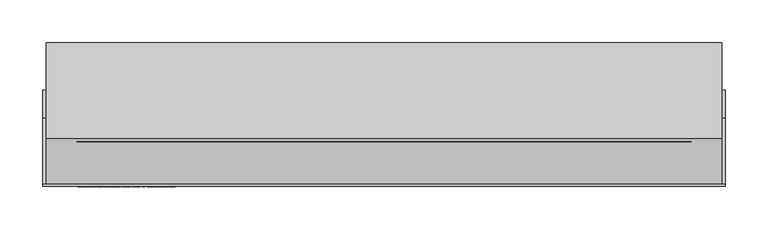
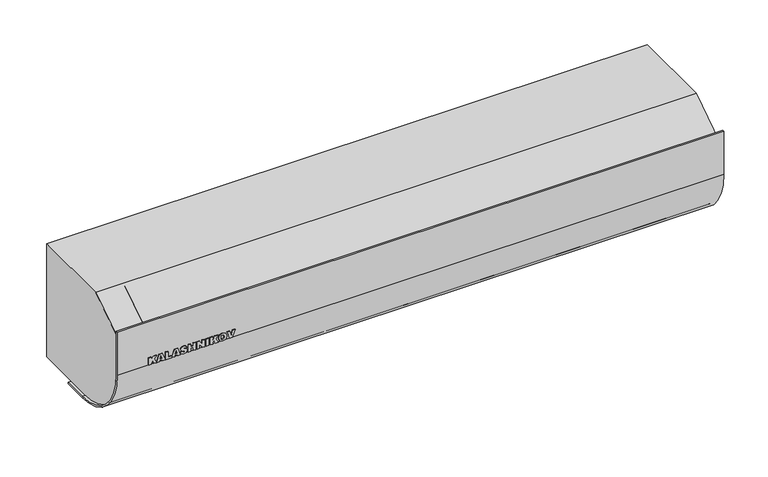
"""IFC4 building model written with IfcOpenShell, lengths in millimetres: proxy geometry, ADSK_Завеса_Электрическая : KVC-A08E3-11."""

from ifc_helpers import new_model, si_unit, point, frame, frame_2d, origin, place, context, project, spatial, polyline, circle_curve, trimmed, segment, composite_curve, outline, extrude, source, transform, mapped, element, save
from ifc_brep_helpers import plane_surface, cylinder_surface, advanced_brep


def mechanical_equipment_9118009e(model_context):
    return source(origin(), model_context, "Body", "SolidModel", [
        extrude(outline(polyline([(90.0, -359.0196078), (80.0, -359.0196078), (80.0, -355.8823529), (81.7647059, -355.8823529), (83.7745098, -354.1115196), (80.0, -352.2794118), (80.0, -348.4313725), (86.2775735, -351.9056373), (90.0, -348.627451), (90.0, -352.8982843), (86.2224265, -355.8823529), (90.0, -355.8823529), (90.0, -359.0196078)])), frame((0.0, -169.0, 0.0), z_axis=(0.0, 1.0, 0.0), x_axis=(0.0, 0.0, 1.0)), (0.0, 0.0, 1.0), 1.0),
        extrude(outline(polyline([(81.5686275, -341.4338235), (80.0, -340.9803922), (80.0, -337.6470588), (90.0, -341.0202206), (90.0, -345.0582108), (80.0, -348.4313725), (80.0, -345.0980392), (81.5686275, -344.6660539), (81.5686275, -341.4338235)]), holes=[polyline([(83.9215686, -342.0281863), (83.9215686, -344.0165441), (87.4540441, -343.0392157), (83.9215686, -342.0281863)])]), frame((0.0, -169.0, 0.0), z_axis=(0.0, 1.0, 0.0), x_axis=(0.0, 0.0, 1.0)), (0.0, 0.0, 1.0), 1.0),
        extrude(outline(polyline([(90.0, -336.6666667), (80.0, -336.6666667), (80.0, -328.8235294), (82.3529412, -328.8235294), (82.3529412, -333.5294118), (90.0, -333.5294118), (90.0, -336.6666667)])), frame((0.0, -169.0, 0.0), z_axis=(0.0, 1.0, 0.0), x_axis=(0.0, 0.0, 1.0)), (0.0, 0.0, 1.0), 1.0),
        extrude(outline(polyline([(81.5686275, -321.4338235), (80.0, -320.9803922), (80.0, -317.6470588), (90.0, -321.0202206), (90.0, -325.0582108), (80.0, -328.4313725), (80.0, -325.0980392), (81.5686275, -324.6660539), (81.5686275, -321.4338235)]), holes=[polyline([(83.9215686, -322.0281863), (83.9215686, -324.0165441), (87.4540441, -323.0392157), (83.9215686, -322.0281863)])]), frame((0.0, -169.0, 0.0), z_axis=(0.0, 1.0, 0.0), x_axis=(0.0, 0.0, 1.0)), (0.0, 0.0, 1.0), 1.0),
        extrude(outline(polyline([(83.3394608, -317.254902), (80.8026961, -316.1488971), (79.8039216, -312.6378676), (80.2297794, -310.2420343), (81.4813113, -308.7637868), (83.28125, -308.2352941), (84.7870711, -308.6305147), (85.9129902, -309.8958333), (86.8106618, -312.7757353), (88.4313725, -312.9074755), (88.1050858, -312.1338848), (87.0588235, -311.7647059), (87.2395833, -308.627451), (89.4883578, -309.8054534), (90.1960784, -312.6807598), (89.8039216, -315.1011029), (88.7285539, -316.4231005), (87.276348, -316.8627451), (85.3492647, -315.9957108), (84.1237745, -313.1219363), (82.8186275, -311.372549), (82.0818015, -311.6865809), (81.7647059, -312.5796569), (82.3958333, -313.7775735), (83.5294118, -314.1176471), (83.3394608, -317.254902)])), frame((0.0, -169.0, 0.0), z_axis=(0.0, 1.0, 0.0), x_axis=(0.0, 0.0, 1.0)), (0.0, 0.0, 1.0), 1.0),
        extrude(outline(polyline([(90.0, -306.6666667), (80.0, -306.6666667), (80.0, -303.5294118), (84.1176471, -303.5294118), (84.1176471, -300.1960784), (80.0, -300.1960784), (80.0, -297.0588235), (90.0, -297.0588235), (90.0, -300.1960784), (86.4705882, -300.1960784), (86.4705882, -303.5294118), (90.0, -303.5294118), (90.0, -306.6666667)])), frame((0.0, -169.0, 0.0), z_axis=(0.0, 1.0, 0.0), x_axis=(0.0, 0.0, 1.0)), (0.0, 0.0, 1.0), 1.0),
        extrude(outline(polyline([(90.0, -295.0980392), (80.0, -295.0980392), (80.0, -292.1568627), (85.4901961, -292.1568627), (80.0, -288.4313725), (80.0, -285.4901961), (90.0, -285.4901961), (90.0, -288.4313725), (84.4730392, -288.4313725), (90.0, -292.1783088), (90.0, -295.0980392)])), frame((0.0, -169.0, 0.0), z_axis=(0.0, 1.0, 0.0), x_axis=(0.0, 0.0, 1.0)), (0.0, 0.0, 1.0), 1.0),
        extrude(outline(polyline([(-280.1960784, -169.0), (-283.3333333, -169.0), (-283.3333333, -168.0), (-280.1960784, -168.0), (-280.1960784, -169.0)])), frame((0.0, 0.0, 80.0), z_axis=(0.0, 0.0, 1.0), x_axis=(1.0, 0.0, 0.0)), (0.0, 0.0, 1.0), 10.0),
        extrude(outline(polyline([(90.0, -278.0392157), (80.0, -278.0392157), (80.0, -274.9019608), (81.7647059, -274.9019608), (83.7745098, -273.1311275), (80.0, -271.2990196), (80.0, -267.4509804), (86.2775735, -270.9252451), (90.0, -267.6470588), (90.0, -271.9178922), (86.2224265, -274.9019608), (90.0, -274.9019608), (90.0, -278.0392157)])), frame((0.0, -169.0, 0.0), z_axis=(0.0, 1.0, 0.0), x_axis=(0.0, 0.0, 1.0)), (0.0, 0.0, 1.0), 1.0),
        extrude(outline(polyline([(84.9938725, -266.8627451), (82.0603554, -266.171875), (80.346201, -264.3688725), (79.8039216, -261.5594363), (80.4304534, -258.7729779), (82.1859681, -257.0618873), (85.0765931, -256.4705882), (88.8495711, -257.8247549), (90.1960784, -261.685049), (88.8250613, -265.4947917), (84.9938725, -266.8627451)]), holes=[polyline([(84.9938725, -263.7254902), (87.1813725, -263.1678922), (87.8431373, -261.6911765), (87.1920956, -260.1685049), (85.1286765, -259.6078431), (82.8048407, -260.145527), (82.1568627, -261.6636029), (82.8186275, -263.1709559), (84.9938725, -263.7254902)])]), frame((0.0, -169.0, 0.0), z_axis=(0.0, 1.0, 0.0), x_axis=(0.0, 0.0, 1.0)), (0.0, 0.0, 1.0), 1.0),
        extrude(outline(polyline([(90.0, -255.6862745), (80.0, -251.9699755), (80.0, -248.6397059), (90.0, -244.9019608), (90.0, -248.2352941), (82.8033088, -250.2941176), (90.0, -252.3560049), (90.0, -255.6862745)])), frame((0.0, -169.0, 0.0), z_axis=(0.0, 1.0, 0.0), x_axis=(0.0, 0.0, 1.0)), (0.0, 0.0, 1.0), 1.0),
        extrude(outline(polyline([(-12.6666667, 10.0), (-12.6666667, 0.0), (-21.3333333, 10.0), (-21.3333333, 0.0), (-30.0, 10.0), (-30.0, 0.0), (-38.6666667, 10.0), (-38.6666667, 0.0), (-47.3333333, 10.0), (-47.3333333, 0.0), (-55.9166498, 10.5360909), (-4.0, 10.5360909), (-4.0, 0.0), (-12.6666667, 10.0)])), frame((-360.0, 0.0, 0.0), z_axis=(1.0, 0.0, 0.0), x_axis=(0.0, 1.0, 0.0)), (0.0, 0.0, 1.0), 720.0),
        advanced_brep(
        [(396.0, -112.0, 160.0), (396.0, -166.0, 125.0), (396.0, -166.0, 80.0), (396.0, -88.0, 2.0), (396.0, 0.0, 2.0), (396.0, 0.0, 160.0), (-396.0, -112.0, 160.0), (-396.0, 0.0, 160.0), (-396.0, 0.0, 2.0), (-396.0, -88.0, 2.0), (-396.0, -166.0, 80.0), (-396.0, -166.0, 125.0), (360.0, -4.0, 2.0), (-360.0, -4.0, 2.0), (-360.0, -56.0, 2.0), (360.0, -56.0, 2.0), (360.0, -4.0, 10.0), (360.0, -56.0, 10.0), (-360.0, -56.0, 10.0), (-360.0, -4.0, 10.0)],
        [
            (0, 1),
            (1, 2),
            (2, 3, circle_curve(frame((396.0, -88.0, 80.0), z_axis=(1.0, 0.0, 0.0), x_axis=(0.0, 1.0, 0.0)), 78.0)),
            (3, 4),
            (4, 5),
            (5, 0),
            (6, 7),
            (7, 8),
            (8, 9),
            (9, 10, circle_curve(frame((-396.0, -88.0, 80.0), z_axis=(-1.0, 0.0, 0.0), x_axis=(0.0, 1.0, 0.0)), 78.0)),
            (10, 11),
            (11, 6),
            (1, 11),
            (10, 2),
            (4, 8),
            (7, 5),
            (6, 0),
            (9, 3),
            (12, 13),
            (13, 14),
            (14, 15),
            (15, 12),
            (16, 17),
            (17, 18),
            (18, 19),
            (19, 16),
            (19, 13),
            (12, 16),
            (18, 14),
            (17, 15),
        ],
        [
            plane_surface(frame((396.0, -112.0, 160.0), z_axis=(1.0, 0.0, 0.0), x_axis=(0.0, -0.8391529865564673, -0.5438954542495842))),
            plane_surface(frame((-396.0, -112.0, 160.0), z_axis=(-1.0, 0.0, 0.0), x_axis=(0.0, 0.8391529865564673, 0.5438954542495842))),
            plane_surface(frame((396.0, -166.0, 125.0), z_axis=(0.0, -1.0, 0.0), x_axis=(-1.0, 0.0, 0.0))),
            plane_surface(frame((396.0, 0.0, 2.0), z_axis=(0.0, 1.0, 0.0), x_axis=(-1.0, 0.0, 0.0))),
            plane_surface(frame((396.0, 0.0, 160.0), z_axis=(0.0, 0.0, 1.0), x_axis=(-1.0, 0.0, 0.0))),
            cylinder_surface(frame((-396.0, -88.0, 80.0), z_axis=(1.0, 0.0, 0.0), x_axis=(0.0, 1.0, 0.0)), 78.0),
            plane_surface(frame((396.0, -88.0, 2.0), z_axis=(0.0, 0.0, -1.0), x_axis=(-1.0, 0.0, 0.0))),
            plane_surface(frame((396.0, -112.0, 160.0), z_axis=(0.0, -0.5438954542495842, 0.8391529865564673), x_axis=(-1.0, 0.0, 0.0))),
            plane_surface(frame((-360.0, -4.0, 10.0), z_axis=(0.0, 0.0, -1.0), x_axis=(-1.0, 0.0, 0.0))),
            plane_surface(frame((360.0, -4.0, 10.0), z_axis=(0.0, -1.0, 0.0), x_axis=(0.0, 0.0, -1.0))),
            plane_surface(frame((-360.0, -4.0, 10.0), z_axis=(1.0, 0.0, 0.0), x_axis=(0.0, 0.0, -1.0))),
            plane_surface(frame((-360.0, -56.0, 10.0), z_axis=(0.0, 1.0, 0.0), x_axis=(0.0, 0.0, -1.0))),
            plane_surface(frame((360.0, -56.0, 10.0), z_axis=(-1.0, 0.0, 0.0), x_axis=(0.0, 0.0, -1.0))),
        ],
        [
            (0, [[1, 2, 3, 4, 5, 6]]),
            (1, [[7, 8, 9, 10, 11, 12]]),
            (2, [[-2, 13, -11, 14]]),
            (3, [[-5, 15, -8, 16]]),
            (4, [[-6, -16, -7, 17]]),
            (5, [[-3, -14, -10, 18]]),
            (6, [[-4, -18, -9, -15], [19, 20, 21, 22]]),
            (7, [[-1, -17, -12, -13]]),
            (8, [[23, 24, 25, 26]]),
            (9, [[-26, 27, -19, 28]]),
            (10, [[-25, 29, -20, -27]]),
            (11, [[-24, 30, -21, -29]]),
            (12, [[-23, -28, -22, -30]]),
        ],
    ),
        extrude(outline(polyline([(0.0, -50.0000001), (0.0, 0.0), (720.0, 0.0), (720.0, -50.0000001), (0.0, -50.0000001)])), frame((360.0, -157.390912, 130.1032933), z_axis=(0.0, -0.5438954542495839, 0.8391529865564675), x_axis=(-1.0, 0.0, 0.0)), (0.0, 0.0, 1.0), 0.8),
        extrude(outline(composite_curve([segment(polyline([(-168.0, 140.0), (-166.0, 140.0), (-166.0, 80.0)]), True, "CONTINUOUS"), segment(trimmed(circle_curve(frame_2d((-88.0, 80.0)), 78.0), [point((-166.0, 80.0))], [point((-88.0, 2.0))], True, "CARTESIAN"), True, "CONTINUOUS"), segment(polyline([(-88.0, 2.0), (-56.0, 2.0), (-56.0, 0.0), (-88.0, 0.0)]), True, "CONTINUOUS"), segment(trimmed(circle_curve(frame_2d((-88.0, 80.0)), 80.0), [point((-88.0, 0.0))], [point((-168.0, 80.0))], False, "CARTESIAN"), True, "CONTINUOUS"), segment(polyline([(-168.0, 80.0), (-168.0, 140.0)]), True, "CONTINUOUS")], self_intersect=False)), frame((-400.0, 0.0, 0.0), z_axis=(1.0, 0.0, 0.0), x_axis=(0.0, 1.0, 0.0)), (0.0, 0.0, 1.0), 800.0),
    ])


if __name__ == "__main__":
    model = new_model("IFC4")
    model_context = context("Model", 3, world=origin())
    ifc_project = project(units=[si_unit("LENGTHUNIT", "METRE", prefix="MILLI")], contexts=[model_context])
    site = spatial("IfcSite", under=ifc_project)
    building = spatial("IfcBuilding", under=site)
    placement = place(None, origin())
    mechanical_equipment_shape = mechanical_equipment_9118009e(model_context)
    element("IfcBuildingElementProxy", 1, Name="ADSK_Завеса_Электрическая : KVC-A08E3-11", ObjectType="ADSK_Завеса_Электрическая : KVC-A08E3-11", at=placement, inside=building, context=model_context, shape_type="MappedRepresentation", body=[
        mapped(mechanical_equipment_shape, transform((0.0, 0.0, 0.0), x_axis=(1.0, 0.0, 0.0), y_axis=(0.0, 1.0, 0.0), z_axis=(0.0, 0.0, 1.0))),
    ])
    save(model, "model.ifc")
